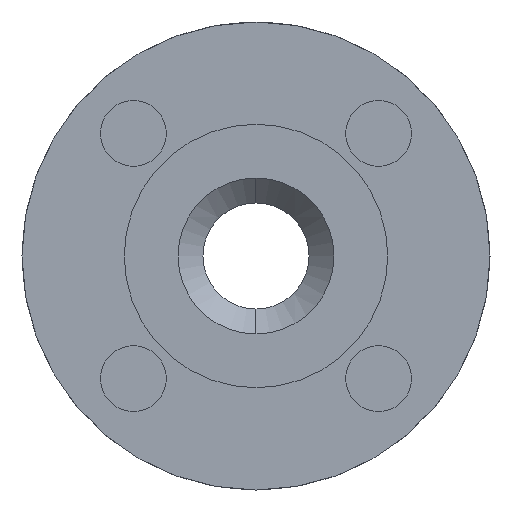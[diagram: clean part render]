
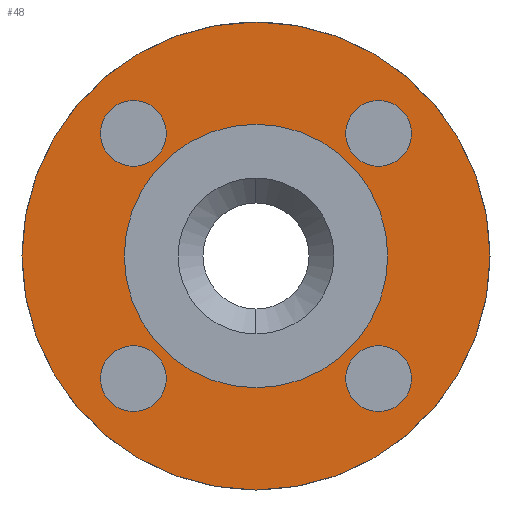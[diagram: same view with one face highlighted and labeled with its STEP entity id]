
A CAD part, left-side view. The second image highlights one B-rep face of the part: STEP entity #48.
In plain terms, the highlighted planar face has unit normal (-1, 0, 0).
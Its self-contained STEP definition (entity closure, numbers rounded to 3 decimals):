
#48=ADVANCED_FACE('',(#229,#230,#231,#232,#233,#234),#228,.T.);
#228=PLANE('',#1252);
#229=FACE_OUTER_BOUND('',#1253,.T.);
#230=FACE_BOUND('',#1254,.T.);
#231=FACE_BOUND('',#1255,.T.);
#232=FACE_BOUND('',#1256,.T.);
#233=FACE_BOUND('',#1257,.T.);
#234=FACE_BOUND('',#1258,.T.);
#1249=CARTESIAN_POINT('',(2.,-126.913,-145.));
#1250=DIRECTION('',(-1.,0.,0.));
#1251=DIRECTION('',(0.,0.,1.));
#1252=AXIS2_PLACEMENT_3D('',#1249,#1250,#1251);
#1253=EDGE_LOOP('',(#2195,#2196));
#1254=EDGE_LOOP('',(#2197,#2198));
#1255=EDGE_LOOP('',(#2199,#2200));
#1256=EDGE_LOOP('',(#2201,#2202));
#1257=EDGE_LOOP('',(#2203,#2204));
#1258=EDGE_LOOP('',(#2205,#2206));
#2195=ORIENTED_EDGE('',*,*,#2656,.T.);
#2196=ORIENTED_EDGE('',*,*,#2657,.T.);
#2197=ORIENTED_EDGE('',*,*,#2658,.F.);
#2198=ORIENTED_EDGE('',*,*,#2659,.F.);
#2199=ORIENTED_EDGE('',*,*,#2660,.F.);
#2200=ORIENTED_EDGE('',*,*,#2661,.F.);
#2201=ORIENTED_EDGE('',*,*,#2662,.F.);
#2202=ORIENTED_EDGE('',*,*,#2663,.F.);
#2203=ORIENTED_EDGE('',*,*,#2664,.F.);
#2204=ORIENTED_EDGE('',*,*,#2665,.F.);
#2205=ORIENTED_EDGE('',*,*,#2666,.F.);
#2206=ORIENTED_EDGE('',*,*,#2667,.F.);
#2656=EDGE_CURVE('',#3078,#3079,#3080,.T.);
#2657=EDGE_CURVE('',#3079,#3078,#3086,.T.);
#2658=EDGE_CURVE('',#3092,#3093,#3094,.T.);
#2659=EDGE_CURVE('',#3093,#3092,#3100,.T.);
#2660=EDGE_CURVE('',#3106,#3107,#3108,.T.);
#2661=EDGE_CURVE('',#3107,#3106,#3114,.T.);
#2662=EDGE_CURVE('',#3120,#3121,#3122,.T.);
#2663=EDGE_CURVE('',#3121,#3120,#3128,.T.);
#2664=EDGE_CURVE('',#3134,#3135,#3136,.T.);
#2665=EDGE_CURVE('',#3135,#3134,#3142,.T.);
#2666=EDGE_CURVE('',#3148,#3149,#3150,.T.);
#2667=EDGE_CURVE('',#3149,#3148,#3156,.T.);
#3078=VERTEX_POINT('',#4561);
#3079=VERTEX_POINT('',#4562);
#3080=CIRCLE('',#4566,67.5);
#3086=CIRCLE('',#4570,67.5);
#3092=VERTEX_POINT('',#4571);
#3093=VERTEX_POINT('',#4572);
#3094=CIRCLE('',#4576,9.5);
#3100=CIRCLE('',#4580,9.5);
#3106=VERTEX_POINT('',#4581);
#3107=VERTEX_POINT('',#4582);
#3108=CIRCLE('',#4586,9.5);
#3114=CIRCLE('',#4590,9.5);
#3120=VERTEX_POINT('',#4591);
#3121=VERTEX_POINT('',#4592);
#3122=CIRCLE('',#4596,9.5);
#3128=CIRCLE('',#4600,9.5);
#3134=VERTEX_POINT('',#4601);
#3135=VERTEX_POINT('',#4602);
#3136=CIRCLE('',#4606,9.5);
#3142=CIRCLE('',#4610,9.5);
#3148=VERTEX_POINT('',#4611);
#3149=VERTEX_POINT('',#4612);
#3150=CIRCLE('',#4616,38.);
#3156=CIRCLE('',#4620,38.);
#4561=CARTESIAN_POINT('',(2.,0.,67.5));
#4562=CARTESIAN_POINT('',(2.,0.,-67.5));
#4563=CARTESIAN_POINT('',(2.,0.,0.));
#4564=DIRECTION('',(-1.,0.,0.));
#4565=DIRECTION('',(0.,0.,1.));
#4566=AXIS2_PLACEMENT_3D('',#4563,#4564,#4565);
#4567=CARTESIAN_POINT('',(2.,0.,0.));
#4568=DIRECTION('',(-1.,0.,0.));
#4569=DIRECTION('',(0.,0.,1.));
#4570=AXIS2_PLACEMENT_3D('',#4567,#4568,#4569);
#4571=CARTESIAN_POINT('',(2.,-35.355,-25.855));
#4572=CARTESIAN_POINT('',(2.,-35.355,-44.855));
#4573=CARTESIAN_POINT('',(2.,-35.355,-35.355));
#4574=DIRECTION('',(-1.,0.,0.));
#4575=DIRECTION('',(0.,0.,-1.));
#4576=AXIS2_PLACEMENT_3D('',#4573,#4574,#4575);
#4577=CARTESIAN_POINT('',(2.,-35.355,-35.355));
#4578=DIRECTION('',(-1.,0.,0.));
#4579=DIRECTION('',(0.,0.,-1.));
#4580=AXIS2_PLACEMENT_3D('',#4577,#4578,#4579);
#4581=CARTESIAN_POINT('',(2.,35.355,-25.855));
#4582=CARTESIAN_POINT('',(2.,35.355,-44.855));
#4583=CARTESIAN_POINT('',(2.,35.355,-35.355));
#4584=DIRECTION('',(-1.,0.,0.));
#4585=DIRECTION('',(0.,0.,-1.));
#4586=AXIS2_PLACEMENT_3D('',#4583,#4584,#4585);
#4587=CARTESIAN_POINT('',(2.,35.355,-35.355));
#4588=DIRECTION('',(-1.,0.,0.));
#4589=DIRECTION('',(0.,0.,-1.));
#4590=AXIS2_PLACEMENT_3D('',#4587,#4588,#4589);
#4591=CARTESIAN_POINT('',(2.,35.355,44.855));
#4592=CARTESIAN_POINT('',(2.,35.355,25.855));
#4593=CARTESIAN_POINT('',(2.,35.355,35.355));
#4594=DIRECTION('',(-1.,0.,0.));
#4595=DIRECTION('',(0.,0.,-1.));
#4596=AXIS2_PLACEMENT_3D('',#4593,#4594,#4595);
#4597=CARTESIAN_POINT('',(2.,35.355,35.355));
#4598=DIRECTION('',(-1.,0.,0.));
#4599=DIRECTION('',(0.,0.,-1.));
#4600=AXIS2_PLACEMENT_3D('',#4597,#4598,#4599);
#4601=CARTESIAN_POINT('',(2.,-35.355,44.855));
#4602=CARTESIAN_POINT('',(2.,-35.355,25.855));
#4603=CARTESIAN_POINT('',(2.,-35.355,35.355));
#4604=DIRECTION('',(-1.,0.,0.));
#4605=DIRECTION('',(0.,0.,-1.));
#4606=AXIS2_PLACEMENT_3D('',#4603,#4604,#4605);
#4607=CARTESIAN_POINT('',(2.,-35.355,35.355));
#4608=DIRECTION('',(-1.,0.,0.));
#4609=DIRECTION('',(0.,0.,-1.));
#4610=AXIS2_PLACEMENT_3D('',#4607,#4608,#4609);
#4611=CARTESIAN_POINT('',(2.,0.,-38.));
#4612=CARTESIAN_POINT('',(2.,0.,38.));
#4613=CARTESIAN_POINT('',(2.,0.,0.));
#4614=DIRECTION('',(-1.,0.,0.));
#4615=DIRECTION('',(0.,0.,1.));
#4616=AXIS2_PLACEMENT_3D('',#4613,#4614,#4615);
#4617=CARTESIAN_POINT('',(2.,0.,0.));
#4618=DIRECTION('',(-1.,0.,0.));
#4619=DIRECTION('',(0.,0.,1.));
#4620=AXIS2_PLACEMENT_3D('',#4617,#4618,#4619);
